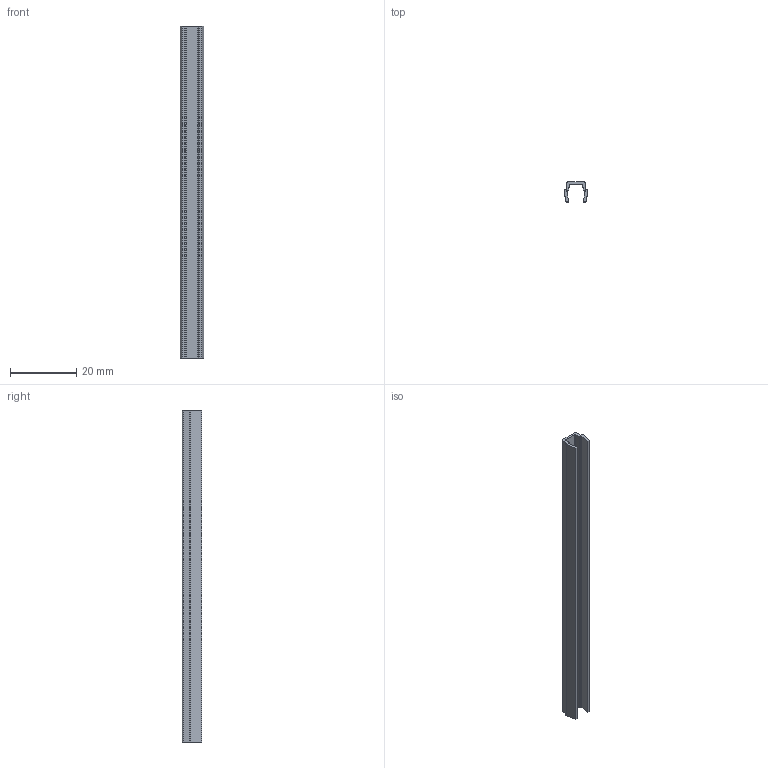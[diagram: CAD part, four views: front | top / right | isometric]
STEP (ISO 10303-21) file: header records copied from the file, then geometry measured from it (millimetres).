
FILE_DESCRIPTION (( 'STEP AP214' ), '1' );
FILE_NAME ('6mm afdicht en klemprofiel.STEP', '2019-04-12T09:02:44', ( '' ), ( '' ), 'SwSTEP 2.0', 'SolidWorks 2018', '' );
FILE_SCHEMA (( 'AUTOMOTIVE_DESIGN' ));
Length unit declared in the file: millimetre
Products named in the file (1): 6mm afdicht en klemprofiel
Bounding box: 7.2 x 5.9 x 100 mm (x, y, z)
Volume: 1276.6 mm3; surface area: 3518 mm2
Topology: 1 solids, 1 shells, 27 faces, 75 edges, 50 vertices
Faces by surface type: plane 18, cylinder 9
Entity records: 901 total; most frequent: CARTESIAN_POINT 153, ORIENTED_EDGE 150, DIRECTION 149, EDGE_CURVE 75, VECTOR 57, LINE 57, VERTEX_POINT 50, AXIS2_PLACEMENT_3D 46
